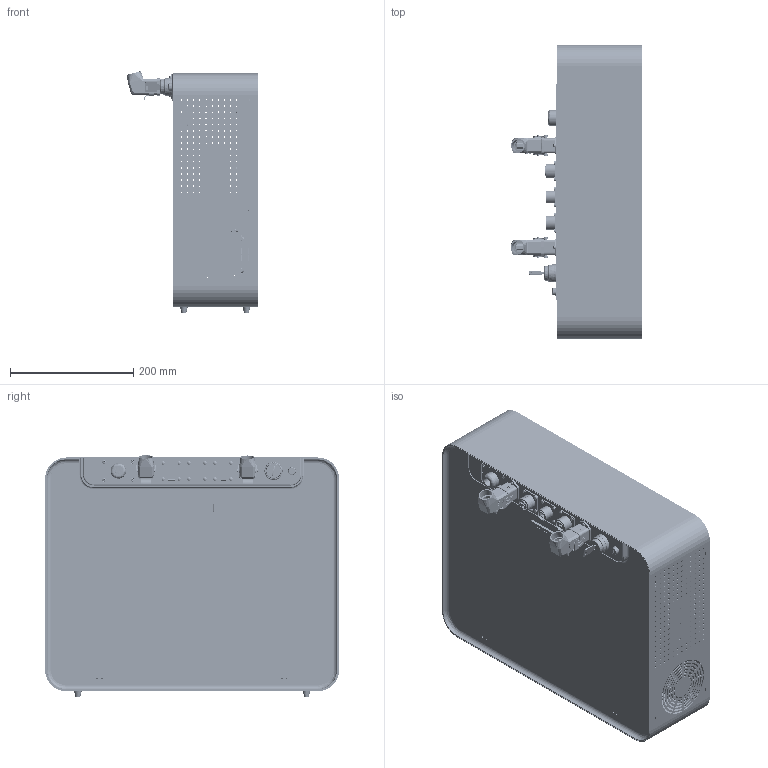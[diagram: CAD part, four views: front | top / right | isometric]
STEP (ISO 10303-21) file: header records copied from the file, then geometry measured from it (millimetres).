
FILE_DESCRIPTION (( 'STEP AP203' ), '1' );
FILE_NAME ('EC612 220V¿ØÖÆ¹ñ.STEP', '2020-02-24T08:00:11', ( '' ), ( '' ), 'SwSTEP 2.0', 'SolidWorks 2017', '' );
FILE_SCHEMA (( 'CONFIG_CONTROL_DESIGN' ));
Length unit declared in the file: millimetre
Products named in the file (45): 09200042734_100579644MOD000A_A_ASM; _X2_56FE5757_X0__07_A; 02_LSX001_ALL_00000_ASM; PRT0086; PRT0015; PRT0087; OUTSIDE-HW_K_A_ASM; 7-4; _X2_56FE5757_X0__16_A; 諉脣璃蚾饜极; 09200042634_100579646MOD000A_A_ASM; HAN_4_PE_A_ASM; MD_09620030301_R000001_A_ASM; 2-505051; PRT0017; foot; PRT0085; 09360082732_100181385MOD000A_A_ASM; PRT0007; THROUGH_WALL_UNIT; 01_LSX001_ALL_00000_ASM; right; GBT818-2000M38_A; _X2_56FE5757_X0__08_A; EC612 220V諷秶嶄; OUTSIDE-HW-KS_-M_2_A; _X2_56FE5757_X0__05_A; USB_PLUGIN_FEMALE_PIN_A; PRT0002; INTERNET_PLUGIN_FEMALE_PIN_A; PRT0008; 19620031640_100104673MOD000A_A_ASM; 09360082632_100181384MOD000A_A_ASM; HAN_8D_A_ASM; PRT0014; OUTSIDE-HWM_1_A; 03_LSX001_ALL_00000_ASM; _X2_56FE5757_X0__04_A; RS485_PLUGIN_FEMALE_PIN_A_ASM; PRT0088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
Assembly tree (75 placements, depth 5):
  EC612 220V諷秶嶄
    01_LSX001_ALL_00000_ASM
      PRT0085
      PRT0086
      PRT0007
      PRT0015
      PRT0017
      PRT0087
      PRT0088
      7-3
      7-4
    02_LSX001_ALL_00000_ASM
      PRT0002
      M3_3  x6
    03_LSX001_ALL_00000_ASM
      PRT0006
      PRT0014  x2
    PRT0008
    MS738-1
    foot  x4
    right
    諉脣璃蚾饜极
      HAN_4_PE_A_ASM
        09200042634_100579646MOD000A_A_ASM
          _X2_56FE5757_X0__05_A
        09200042734_100579644MOD000A_A_ASM
          _X2_56FE5757_X0__08_A
        19620031640_100104673MOD000A_A_ASM
          _X2_56FE5757_X0__03_A
        MD_09620030301_R000001_A_ASM
          _X2_56FE5757_X0__07_A
      HAN_8D_A_ASM
        19620031640_100104673MOD000A_A_ASM
          _X2_56FE5757_X0__03_A
        09360082632_100181384MOD000A_A_ASM
          _X2_56FE5757_X0__04_A
        MD_09620030301_R000001_A_ASM
          _X2_56FE5757_X0__07_A
        09360082732_100181385MOD000A_A_ASM
          _X2_56FE5757_X0__16_A
      OUTSIDE-HW_K_A_ASM
        OUTSIDE-HWM_1_A
        OUTSIDE-HW-KS_-M_2_A
      INTERNET_PLUGIN_FEMALE_PIN_A
      RS485_PLUGIN_FEMALE_PIN_A_ASM
        2-505051
      USB_PLUGIN_FEMALE_PIN_A
      THROUGH_WALL_UNIT
      GBT818-2000M38_A  x5
    GBT818-2000M38_A  x16
Bounding box: 212.61 x 478 x 392.3 mm (x, y, z)
Volume: 724408.9 mm3; surface area: 1796183.4 mm2
Topology: 54 solids, 239 shells, 6818 faces, 18798 edges, 12520 vertices
Faces by surface type: plane 3190, cylinder 2785, bspline 454, cone 347, torus 42
Entity records: 253442 total; most frequent: CARTESIAN_POINT 102454, ORIENTED_EDGE 31125, DIRECTION 27594, EDGE_CURVE 16051, VERTEX_POINT 10843, AXIS2_PLACEMENT_3D 9724, VECTOR 8146, LINE 8146
